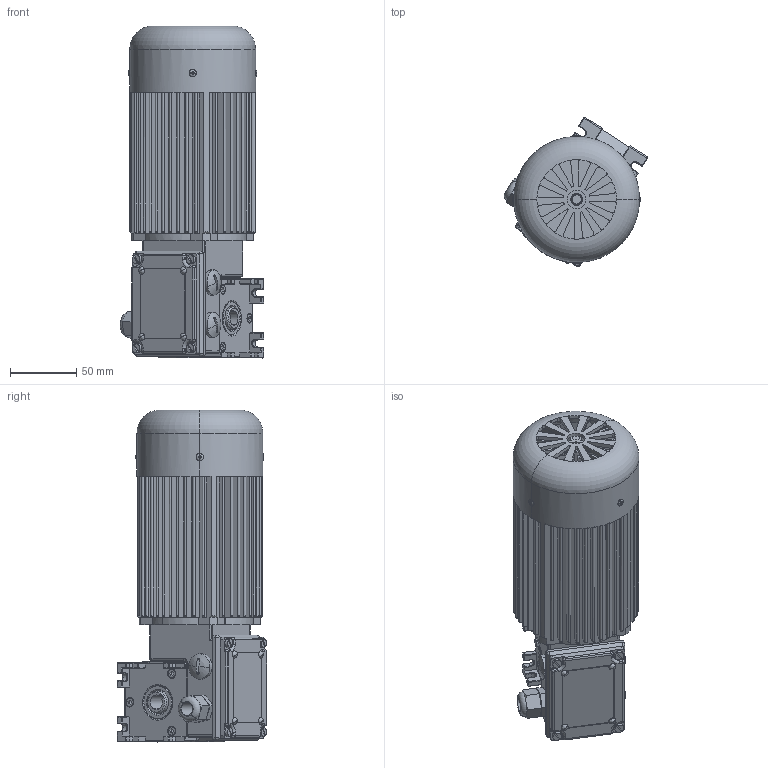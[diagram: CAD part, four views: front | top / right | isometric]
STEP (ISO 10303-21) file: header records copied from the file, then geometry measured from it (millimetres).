
FILE_DESCRIPTION((''),'2;1');
FILE_NAME('C:\Documents and Settings\marco\Desktop\DATI\DATI MARCO\Disegni inventor\STEP\MC\MC_P3-B3.stp','2003-08-26T16:48:32',('Administrator'),(''),'Autodesk Inventor 7','Autodesk Inventor 7','');
FILE_SCHEMA(('AUTOMOTIVE_DESIGN { 1 0 10303 214 1 1 1 1 }'));
Length unit declared in the file: millimetre
Products named in the file (1): MC_P3-B3
Bounding box: 108.4 x 112.7 x 250.6 mm (x, y, z)
Volume: 611372.3 mm3; surface area: 313199.7 mm2
Topology: 26 solids, 26 shells, 3421 faces, 9386 edges, 5911 vertices
Faces by surface type: plane 1761, cylinder 868, bspline 388, cone 312, torus 56, sphere 36
Entity records: 119285 total; most frequent: CARTESIAN_POINT 33597, ORIENTED_EDGE 18568, DIRECTION 17786, EDGE_CURVE 9284, AXIS2_PLACEMENT_3D 6327, VERTEX_POINT 5911, VECTOR 5132, LINE 5132
